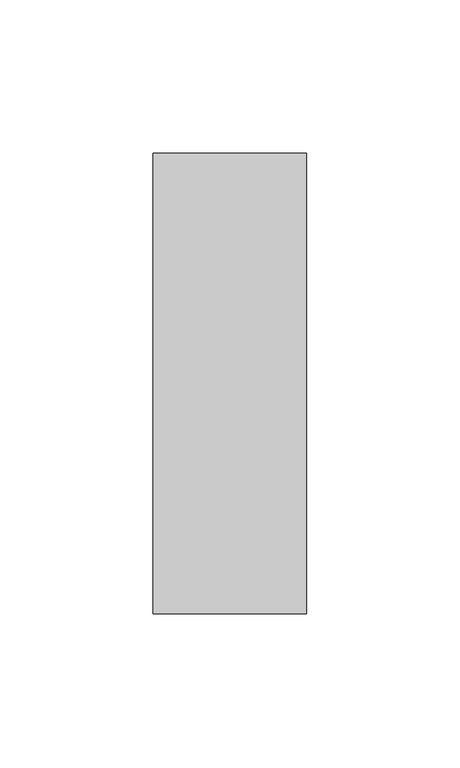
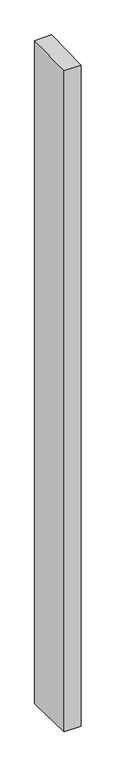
"""IFC4 building model written with IfcOpenShell, lengths in millimetres: member geometry, Прямоугольный импост : 50 x 150 мм."""

from ifc_helpers import new_model, si_unit, origin, place, context, project, spatial, faceted_brep, source, transform, mapped, element, save


def member_0dcbb455(model_context):
    return source(origin(), model_context, "Body", "Brep", [
        faceted_brep([(-25.0, 75.0, 1.2215845), (25.0, 75.0, 1.6489699), (25.0, 75.0, -2059.4499504), (-25.0, 75.0, -2058.9848485), (-25.0, -75.0, -1.6489699), (-25.0, -75.0, -2054.6473928), (25.0, -75.0, -1.2215845), (25.0, -75.0, -2055.1124947)], [[[0, 1, 2, 3]], [[4, 0, 3, 5]], [[6, 4, 5, 7]], [[1, 6, 7, 2]], [[1, 0, 4, 6]], [[2, 7, 5, 3]]]),
    ])


if __name__ == "__main__":
    model = new_model("IFC4")
    model_context = context("Model", 3, world=origin())
    ifc_project = project(units=[si_unit("LENGTHUNIT", "METRE", prefix="MILLI")], contexts=[model_context])
    site = spatial("IfcSite", under=ifc_project)
    building = spatial("IfcBuilding", under=site)
    placement = place(None, origin())
    member_shape = member_0dcbb455(model_context)
    element("IfcMember", 1, ObjectType="Прямоугольный импост : 50 x 150 мм", at=placement, inside=building, context=model_context, shape_type="MappedRepresentation", body=[
        mapped(member_shape, transform((0.0, 0.0, 0.0), x_axis=(1.0, 0.0, 0.0), y_axis=(0.0, 1.0, 0.0), z_axis=(0.0, 0.0, 1.0))),
    ])
    save(model, "model.ifc")
